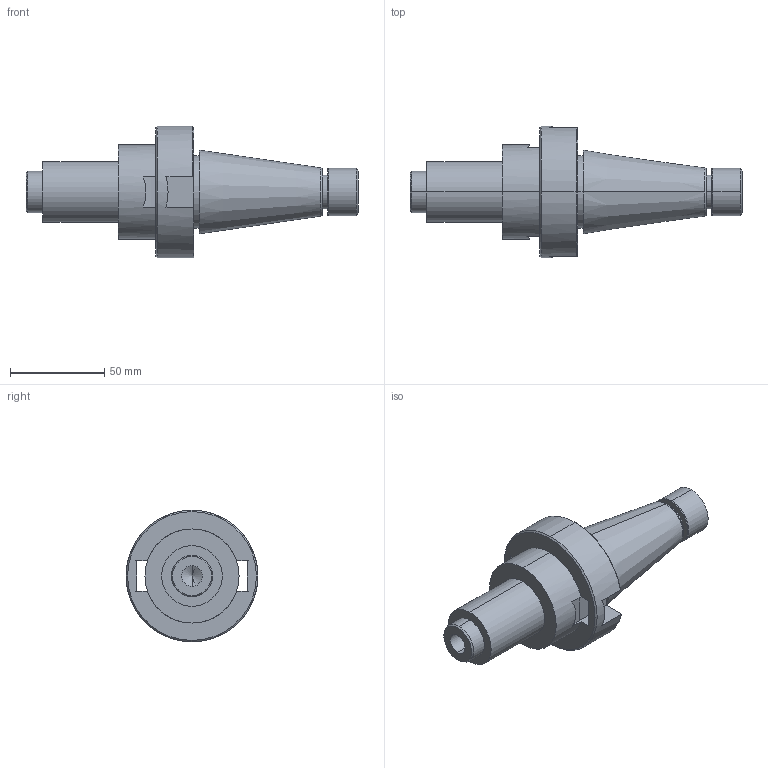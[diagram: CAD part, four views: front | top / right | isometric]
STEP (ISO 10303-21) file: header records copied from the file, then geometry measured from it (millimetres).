
FILE_DESCRIPTION (( 'STEP AP203' ), '1' );
FILE_NAME ('Cone SA40.STEP', '2009-12-04T11:19:57', ( 'Famille Couzi' ), ( '' ), 'SwSTEP 2.0', 'SolidWorks 2005143', '' );
FILE_SCHEMA (( 'CONFIG_CONTROL_DESIGN' ));
Length unit declared in the file: millimetre
Products named in the file (1): Cone SA40
Bounding box: 176.42 x 70 x 70 mm (x, y, z)
Volume: 203921.3 mm3; surface area: 35219.6 mm2
Topology: 1 solids, 1 shells, 61 faces, 149 edges, 91 vertices
Faces by surface type: cone 22, cylinder 20, plane 19
Entity records: 1854 total; most frequent: DIRECTION 327, CARTESIAN_POINT 316, ORIENTED_EDGE 290, EDGE_CURVE 145, AXIS2_PLACEMENT_3D 126, VERTEX_POINT 91, VECTOR 75, LINE 75
